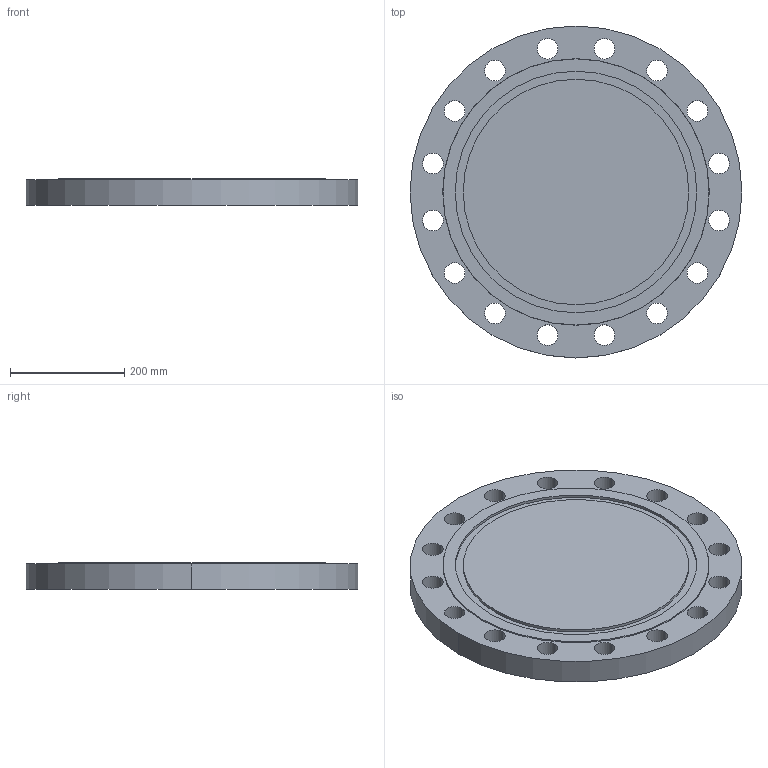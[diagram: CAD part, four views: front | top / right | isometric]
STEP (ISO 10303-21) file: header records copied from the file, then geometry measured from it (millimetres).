
FILE_DESCRIPTION (( 'STEP AP214' ), '1' );
FILE_NAME ('PN40 DN350 Type 05 - Type D Face.STEP', '2019-01-05T21:56:02', ( '' ), ( '' ), 'SwSTEP 2.0', 'SolidWorks 2019', '' );
FILE_SCHEMA (( 'AUTOMOTIVE_DESIGN' ));
Length unit declared in the file: millimetre
Products named in the file (1): PN40 DN350 Type 05 - Type D Face
Bounding box: 580 x 580 x 46 mm (x, y, z)
Volume: 11159001.7 mm3; surface area: 670909 mm2
Topology: 1 solids, 1 shells, 45 faces, 120 edges, 80 vertices
Faces by surface type: cylinder 38, plane 5, cone 2
Entity records: 1552 total; most frequent: DIRECTION 292, CARTESIAN_POINT 246, ORIENTED_EDGE 240, AXIS2_PLACEMENT_3D 126, EDGE_CURVE 120, CIRCLE 80, VERTEX_POINT 80, EDGE_LOOP 80
